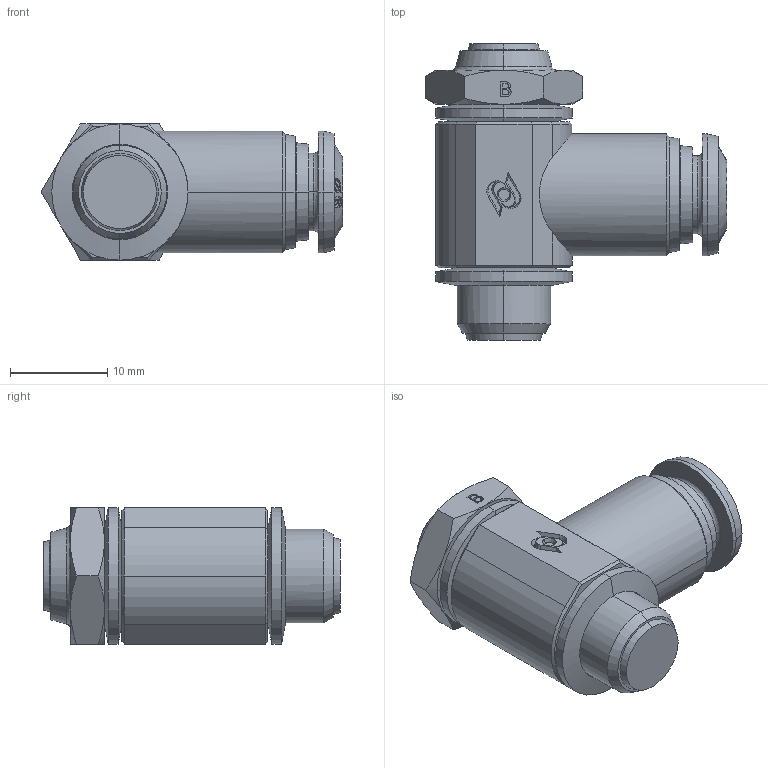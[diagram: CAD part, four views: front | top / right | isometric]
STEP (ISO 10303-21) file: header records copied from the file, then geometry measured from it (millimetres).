
FILE_DESCRIPTION (( 'STEP AP203' ), '1' );
FILE_NAME ('cad_step_249910.STEP', '2018-03-14T11:04:54', ( '' ), ( '' ), 'SwSTEP 2.0', 'SolidWorks 2017', '' );
FILE_SCHEMA (( 'CONFIG_CONTROL_DESIGN' ));
Length unit declared in the file: millimetre
Products named in the file (1): cad_step_249910
Bounding box: 30.98 x 30.5 x 14 mm (x, y, z)
Volume: 5228 mm3; surface area: 4256.2 mm2
Topology: 3 solids, 3 shells, 340 faces, 820 edges, 508 vertices
Faces by surface type: cone 104, plane 91, bspline 81, cylinder 64
Entity records: 16056 total; most frequent: CARTESIAN_POINT 8453, ORIENTED_EDGE 1640, DIRECTION 1438, EDGE_CURVE 820, AXIS2_PLACEMENT_3D 550, VERTEX_POINT 508, EDGE_LOOP 378, FACE_OUTER_BOUND 340
